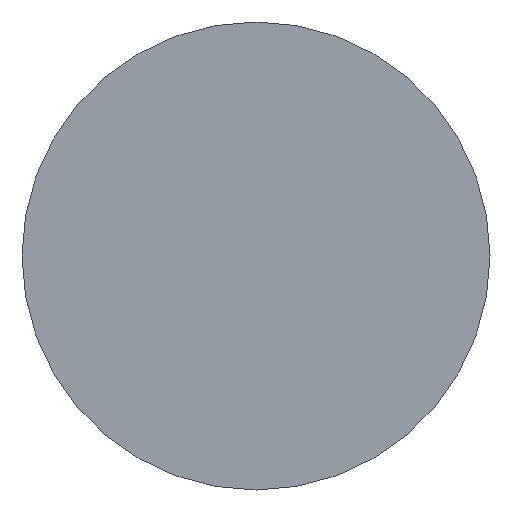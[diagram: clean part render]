
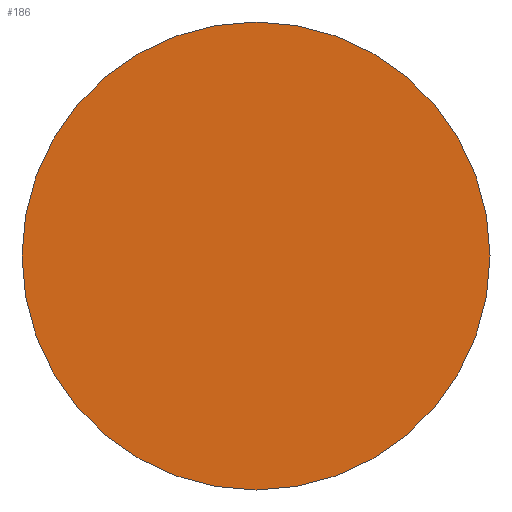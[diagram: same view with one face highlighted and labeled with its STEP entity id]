
A CAD part, left-side view. The second image highlights one B-rep face of the part: STEP entity #186.
In plain terms, the highlighted planar face has unit normal (-1, 0, 0).
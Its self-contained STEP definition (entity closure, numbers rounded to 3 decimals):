
#9 = DIRECTION ( 'NONE',  ( -1., 0., 0. ) ) ;
#20 = DIRECTION ( 'NONE',  ( 1., 0., 0. ) ) ;
#29 = EDGE_CURVE ( 'NONE', #46, #268, #206, .T. ) ;
#39 = DIRECTION ( 'NONE',  ( 1., 0., 0. ) ) ;
#46 = VERTEX_POINT ( 'NONE', #143 ) ;
#64 = CARTESIAN_POINT ( 'NONE',  ( 0., 0., 0. ) ) ;
#75 = FACE_OUTER_BOUND ( 'NONE', #104, .T. ) ;
#77 = DIRECTION ( 'NONE',  ( 0., 1., 0. ) ) ;
#88 = AXIS2_PLACEMENT_3D ( 'NONE', #64, #39, #204 ) ;
#94 = DIRECTION ( 'NONE',  ( 0., -1., 0. ) ) ;
#98 = PLANE ( 'NONE',  #134 ) ;
#104 = EDGE_LOOP ( 'NONE', ( #109, #166 ) ) ;
#109 = ORIENTED_EDGE ( 'NONE', *, *, #29, .F. ) ;
#134 = AXIS2_PLACEMENT_3D ( 'NONE', #249, #9, #94 ) ;
#139 = CARTESIAN_POINT ( 'NONE',  ( 0., 0., 0. ) ) ;
#143 = CARTESIAN_POINT ( 'NONE',  ( 0., 1.25, 0. ) ) ;
#146 = AXIS2_PLACEMENT_3D ( 'NONE', #139, #20, #77 ) ;
#166 = ORIENTED_EDGE ( 'NONE', *, *, #208, .F. ) ;
#186 = ADVANCED_FACE ( 'NONE', ( #75 ), #98, .T. ) ;
#204 = DIRECTION ( 'NONE',  ( 0., 1., 0. ) ) ;
#206 = CIRCLE ( 'NONE', #146, 1.25 ) ;
#208 = EDGE_CURVE ( 'NONE', #268, #46, #255, .T. ) ;
#216 = CARTESIAN_POINT ( 'NONE',  ( 0., -1.25, 0. ) ) ;
#249 = CARTESIAN_POINT ( 'NONE',  ( 0., 0., 0. ) ) ;
#255 = CIRCLE ( 'NONE', #88, 1.25 ) ;
#268 = VERTEX_POINT ( 'NONE', #216 ) ;
